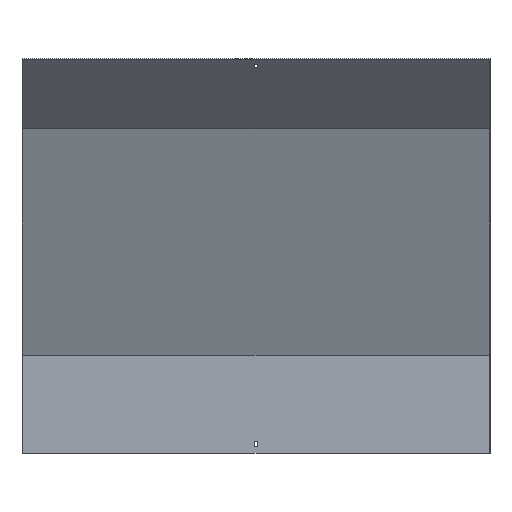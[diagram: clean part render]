
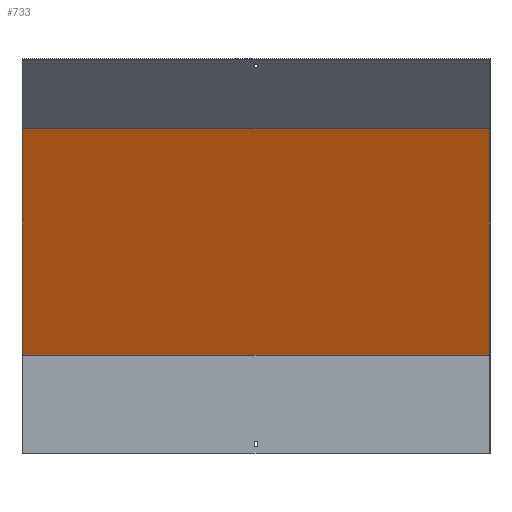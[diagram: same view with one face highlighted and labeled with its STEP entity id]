
A CAD part, front view. The second image highlights one B-rep face of the part: STEP entity #733.
In plain terms, the highlighted planar face has unit normal (0, -0.924, -0.383).
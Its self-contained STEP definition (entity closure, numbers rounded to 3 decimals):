
#17 = VERTEX_POINT ( 'NONE', #710 ) ;
#19 = LINE ( 'NONE', #672, #598 ) ;
#34 = FACE_OUTER_BOUND ( 'NONE', #187, .T. ) ;
#62 = AXIS2_PLACEMENT_3D ( 'NONE', #165, #684, #496 ) ;
#80 = EDGE_CURVE ( 'NONE', #17, #369, #641, .T. ) ;
#91 = CARTESIAN_POINT ( 'NONE',  ( 401.5, 18.5, 168.68 ) ) ;
#165 = CARTESIAN_POINT ( 'NONE',  ( 401.5, 17.092, 172.08 ) ) ;
#171 = EDGE_CURVE ( 'NONE', #671, #313, #398, .T. ) ;
#187 = EDGE_LOOP ( 'NONE', ( #399, #804, #509, #722 ) ) ;
#202 = DIRECTION ( 'NONE',  ( -1., 0., 0. ) ) ;
#233 = DIRECTION ( 'NONE',  ( 0., -0.383, 0.924 ) ) ;
#246 = VECTOR ( 'NONE', #586, 1000. ) ;
#282 = EDGE_CURVE ( 'NONE', #313, #369, #419, .T. ) ;
#305 = CARTESIAN_POINT ( 'NONE',  ( -400., -142.365, 557.042 ) ) ;
#313 = VERTEX_POINT ( 'NONE', #685 ) ;
#314 = VECTOR ( 'NONE', #233, 1000. ) ;
#369 = VERTEX_POINT ( 'NONE', #305 ) ;
#398 = LINE ( 'NONE', #91, #846 ) ;
#399 = ORIENTED_EDGE ( 'NONE', *, *, #282, .F. ) ;
#419 = LINE ( 'NONE', #632, #314 ) ;
#492 = PLANE ( 'NONE',  #62 ) ;
#496 = DIRECTION ( 'NONE',  ( 0., 0.383, -0.924 ) ) ;
#509 = ORIENTED_EDGE ( 'NONE', *, *, #538, .T. ) ;
#538 = EDGE_CURVE ( 'NONE', #671, #17, #19, .T. ) ;
#586 = DIRECTION ( 'NONE',  ( -1., 0., 0. ) ) ;
#598 = VECTOR ( 'NONE', #802, 1000. ) ;
#632 = CARTESIAN_POINT ( 'NONE',  ( -400., 75.428, 31.243 ) ) ;
#641 = LINE ( 'NONE', #785, #246 ) ;
#671 = VERTEX_POINT ( 'NONE', #754 ) ;
#672 = CARTESIAN_POINT ( 'NONE',  ( 400., 75.428, 31.243 ) ) ;
#684 = DIRECTION ( 'NONE',  ( 0., -0.924, -0.383 ) ) ;
#685 = CARTESIAN_POINT ( 'NONE',  ( -400., 18.5, 168.68 ) ) ;
#710 = CARTESIAN_POINT ( 'NONE',  ( 400., -142.365, 557.042 ) ) ;
#722 = ORIENTED_EDGE ( 'NONE', *, *, #80, .T. ) ;
#733 = ADVANCED_FACE ( 'NONE', ( #34 ), #492, .T. ) ;
#754 = CARTESIAN_POINT ( 'NONE',  ( 400., 18.5, 168.68 ) ) ;
#785 = CARTESIAN_POINT ( 'NONE',  ( 401.5, -142.365, 557.042 ) ) ;
#802 = DIRECTION ( 'NONE',  ( 0., -0.383, 0.924 ) ) ;
#804 = ORIENTED_EDGE ( 'NONE', *, *, #171, .F. ) ;
#846 = VECTOR ( 'NONE', #202, 1000. ) ;
